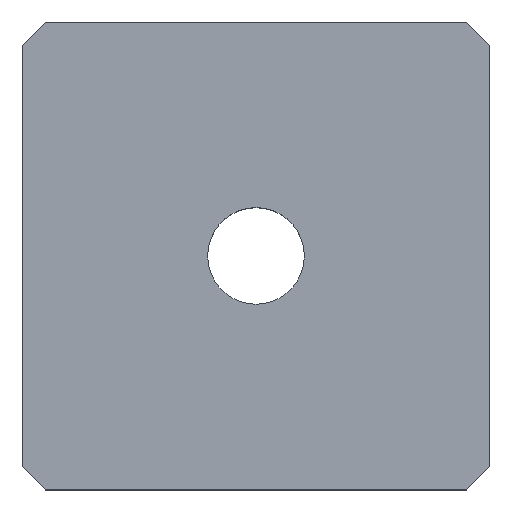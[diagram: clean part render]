
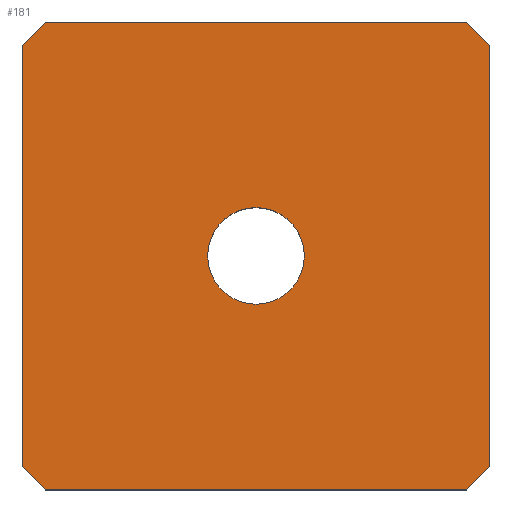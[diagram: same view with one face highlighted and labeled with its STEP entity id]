
A CAD part, top view. The second image highlights one B-rep face of the part: STEP entity #181.
In plain terms, the highlighted planar face has unit normal (0, 0, 1).
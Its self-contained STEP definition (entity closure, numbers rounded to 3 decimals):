
#73=CARTESIAN_POINT('',(19.,20.0,5.0));
#74=VERTEX_POINT('',#73);
#75=CARTESIAN_POINT('',(20.,19.0,5.0));
#76=VERTEX_POINT('',#75);
#77=CARTESIAN_POINT('',(19.,20.,5.0));
#78=DIRECTION('',(0.707,-0.707,0.0));
#79=VECTOR('',#78,1.414);
#80=LINE('',#77,#79);
#81=EDGE_CURVE('',#74,#76,#80,.T.);
#108=CARTESIAN_POINT('',(10.,10.,5.0));
#109=DIRECTION('',(0.0,0.0,1.0));
#110=DIRECTION('',(1.0,0.0,0.0));
#111=AXIS2_PLACEMENT_3D('',#108,#109,#110);
#112=PLANE('',#111);
#113=ORIENTED_EDGE('',*,*,#81,.F.);
#114=CARTESIAN_POINT('',(1.,20.,5.0));
#115=VERTEX_POINT('',#114);
#116=CARTESIAN_POINT('',(1.,20.,5.0));
#117=DIRECTION('',(1.0,0.0,0.0));
#118=VECTOR('',#117,18.0);
#119=LINE('',#116,#118);
#120=EDGE_CURVE('',#115,#74,#119,.T.);
#121=ORIENTED_EDGE('',*,*,#120,.F.);
#122=CARTESIAN_POINT('',(0.,19.,5.0));
#123=VERTEX_POINT('',#122);
#124=CARTESIAN_POINT('',(0.,19.,5.0));
#125=DIRECTION('',(0.707,0.707,0.0));
#126=VECTOR('',#125,1.414);
#127=LINE('',#124,#126);
#128=EDGE_CURVE('',#123,#115,#127,.T.);
#129=ORIENTED_EDGE('',*,*,#128,.F.);
#130=CARTESIAN_POINT('',(0.,1.,5.0));
#131=VERTEX_POINT('',#130);
#132=CARTESIAN_POINT('',(0.,1.0,5.0));
#133=DIRECTION('',(0.0,1.0,0.0));
#134=VECTOR('',#133,18.);
#135=LINE('',#132,#134);
#136=EDGE_CURVE('',#131,#123,#135,.T.);
#137=ORIENTED_EDGE('',*,*,#136,.F.);
#138=CARTESIAN_POINT('',(1.,0.0,5.0));
#139=VERTEX_POINT('',#138);
#140=CARTESIAN_POINT('',(1.,0.,5.0));
#141=DIRECTION('',(-0.707,0.707,0.0));
#142=VECTOR('',#141,1.414);
#143=LINE('',#140,#142);
#144=EDGE_CURVE('',#139,#131,#143,.T.);
#145=ORIENTED_EDGE('',*,*,#144,.F.);
#146=CARTESIAN_POINT('',(19.0,0.0,5.0));
#147=VERTEX_POINT('',#146);
#148=CARTESIAN_POINT('',(19.0,0.0,5.0));
#149=DIRECTION('',(-1.0,0.0,0.0));
#150=VECTOR('',#149,18.0);
#151=LINE('',#148,#150);
#152=EDGE_CURVE('',#147,#139,#151,.T.);
#153=ORIENTED_EDGE('',*,*,#152,.F.);
#154=CARTESIAN_POINT('',(20.0,1.,5.0));
#155=VERTEX_POINT('',#154);
#156=CARTESIAN_POINT('',(20.0,1.,5.0));
#157=DIRECTION('',(-0.707,-0.707,0.0));
#158=VECTOR('',#157,1.414);
#159=LINE('',#156,#158);
#160=EDGE_CURVE('',#155,#147,#159,.T.);
#161=ORIENTED_EDGE('',*,*,#160,.F.);
#162=CARTESIAN_POINT('',(20.,19.0,5.0));
#163=DIRECTION('',(0.0,-1.0,0.0));
#164=VECTOR('',#163,18.0);
#165=LINE('',#162,#164);
#166=EDGE_CURVE('',#76,#155,#165,.T.);
#167=ORIENTED_EDGE('',*,*,#166,.F.);
#168=EDGE_LOOP('',(#113,#121,#129,#137,#145,#153,#161,#167));
#169=FACE_OUTER_BOUND('',#168,.T.);
#170=CARTESIAN_POINT('',(12.067,10.,5.0));
#171=VERTEX_POINT('',#170);
#172=CARTESIAN_POINT('',(10.,10.,5.0));
#173=DIRECTION('',(0.0,0.0,-1.0));
#174=DIRECTION('',(1.0,0.0,0.0));
#175=AXIS2_PLACEMENT_3D('',#172,#173,#174);
#176=CIRCLE('',#175,2.067);
#177=EDGE_CURVE('',#171,#171,#176,.T.);
#178=ORIENTED_EDGE('',*,*,#177,.T.);
#179=EDGE_LOOP('',(#178));
#180=FACE_BOUND('',#179,.T.);
#181=ADVANCED_FACE('',(#169,#180),#112,.T.);
